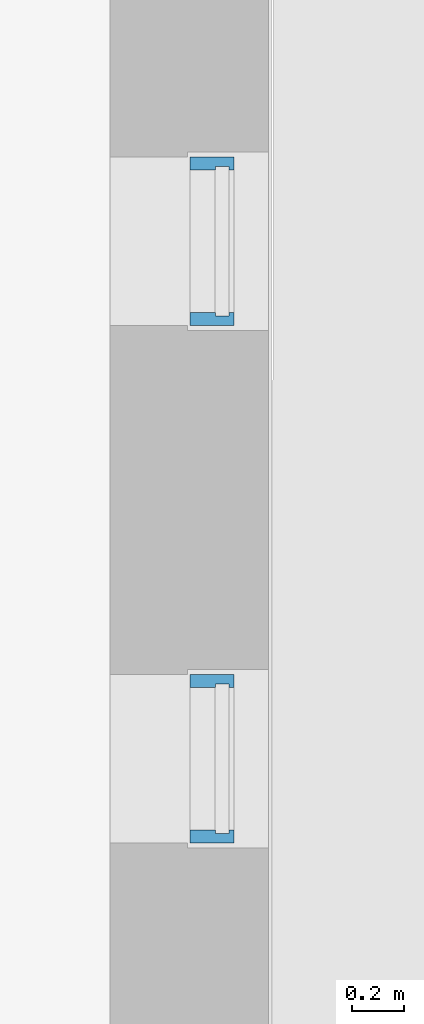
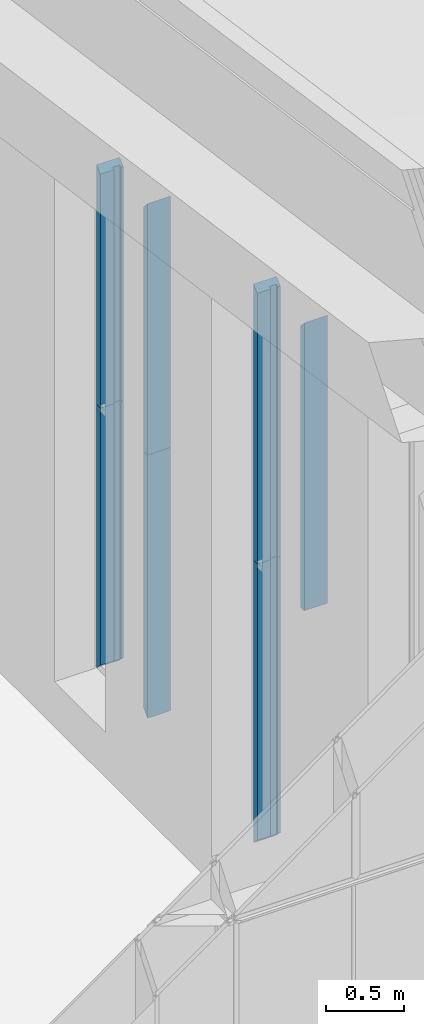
# One storey, part 75 of 246: 7 members, 2 elements without a shape of their own.
"""IFC2X3 building model written with IfcOpenShell, lengths in millimetres."""

from ifc_helpers import new_model, entity, si_unit, converted_unit, derived_unit, money_unit, direction, frame, origin_with_axes, place, context, subcontext, project, spatial, faceted_brep, material, type_object, element, aggregate, save


model = new_model("IFC2X3")

# Units and contexts
model_context = context("Model", 3, precision=0.01, world=origin_with_axes(), true_north=direction((0.0, 1.0)))
body_context = subcontext(model_context, "Body", "Model", "MODEL_VIEW")
ifc_project = project(units=[si_unit("LENGTHUNIT", "METRE", prefix="MILLI"), si_unit("AREAUNIT", "SQUARE_METRE"), si_unit("VOLUMEUNIT", "CUBIC_METRE"), converted_unit("PLANEANGLEUNIT", "DEGREE", entity("IfcPlaneAngleMeasure", 0.0174532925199), si_unit("PLANEANGLEUNIT", "RADIAN"), dimensions=[0, 0, 0, 0, 0, 0, 0]), si_unit("SOLIDANGLEUNIT", "STERADIAN"), money_unit("EUR"), converted_unit("TIMEUNIT", "Year", entity("IfcTimeMeasure", 31556926.0), si_unit("TIMEUNIT", "SECOND"), dimensions=[0, 0, 1, 0, 0, 0, 0]), si_unit("MASSUNIT", "GRAM", prefix="KILO"), si_unit("THERMODYNAMICTEMPERATUREUNIT", "DEGREE_CELSIUS"), si_unit("LUMINOUSINTENSITYUNIT", "LUMEN"), si_unit("ENERGYUNIT", "JOULE", prefix="MEGA"), derived_unit("THERMALCONDUCTANCEUNIT", [(si_unit("POWERUNIT", "WATT"), 1), (si_unit("LENGTHUNIT", "METRE"), -1), (si_unit("THERMODYNAMICTEMPERATUREUNIT", "KELVIN"), -1)]), derived_unit("SPECIFICHEATCAPACITYUNIT", [(si_unit("ENERGYUNIT", "JOULE"), 1), (si_unit("MASSUNIT", "GRAM", prefix="KILO"), -1), (si_unit("THERMODYNAMICTEMPERATUREUNIT", "KELVIN"), -1)]), derived_unit("MASSDENSITYUNIT", [(si_unit("MASSUNIT", "GRAM", prefix="KILO"), 1), (si_unit("VOLUMEUNIT", "CUBIC_METRE"), -1)])], contexts=[model_context])

# Site, building, storey
site_placement = place(None, origin_with_axes())
site = spatial("IfcSite", under=ifc_project, at=site_placement, Name="L.Koidula tn 11b", CompositionType="ELEMENT")
building_placement = place(site_placement, origin_with_axes())
building = spatial("IfcBuilding", under=site, at=building_placement, Name="Rakvere Riigigümnaasium", CompositionType="ELEMENT")
storey_placement = place(building_placement, origin_with_axes())
storey = spatial("IfcBuildingStorey", under=building, at=storey_placement, Name="1.korrus 0,00", CompositionType="ELEMENT", Elevation=0.0)

# Curtain wall, members
curtain_wall_type = type_object("IfcCurtainWallType", Name="Curtain Wall Type", PredefinedType="NOTDEFINED")
curtain_wall_1_placement = place(storey_placement, frame((47433.9999935, 64420.454563, 200.0), z_axis=(0.0, 0.0, 1.0), x_axis=(1.0, 0.0, 0.0)))
curtain_wall_1 = element("IfcCurtainWall", 1, at=curtain_wall_1_placement, inside=storey, type_object=curtain_wall_type, Name="KLF-07-12")
ifc_material = material(Name="Alumiiniumprofiil (RAL 7021)")
member_type = type_object("IfcMemberType", Name="Boundary Frame 50 x 170", PredefinedType="MULLION")
member_1_placement = place(curtain_wall_1_placement, frame((0.0, -325.000197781, 2200.0), z_axis=(0.0, 5.98043645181e-09, 1.0), x_axis=(0.0, 1.0, -5.98043645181e-09)))
member_1 = element("IfcMember", 2, at=member_1_placement, type_object=member_type, material=ifc_material, Name="KLF-07-79-Profiilid", ObjectType="MULLION", context=body_context, shape_type="Brep", body=[
    faceted_brep([(36.999986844, 26.0, 2199.84649606), (49.9999869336, 26.0, 2184.86454443), (49.9999869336, 124.0, 2184.86454443), (-1.3411053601e-05, 124.0, 2242.48743533), (-1.3411053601e-05, -46.0, 2242.48743533), (49.9999869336, -46.0, 2184.86454443), (49.9999869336, -26.0, 2184.86454443), (36.999986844, -26.0, 2199.84649606), (37.0, 26.0, -1.02269392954e-06), (50.0, 26.0, -9.44948119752e-07), (50.0, 124.0, -9.44948119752e-07), (0.0, 124.0, -1.24396981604e-06), (0.0, -46.0, -1.24396981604e-06), (50.0, -46.0, -9.44948119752e-07), (50.0, -26.0, -9.44948119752e-07), (37.0, -26.0, -1.02269392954e-06)], [[[0, 1, 2, 3, 4, 5, 6, 7]], [[0, 8, 9, 1]], [[9, 10, 2, 1]], [[10, 11, 3, 2]], [[11, 12, 4, 3]], [[12, 13, 5, 4]], [[6, 5, 13, 14]], [[14, 15, 7, 6]], [[7, 15, 8, 0]], [[8, 15, 14, 13, 12, 11, 10, 9]]]),
])
member_2_placement = place(curtain_wall_1_placement, frame((0.0, 325.000185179, 4349.94456763), z_axis=(0.0, 5.48452004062e-09, -1.0), x_axis=(0.0, -1.0, -5.48452004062e-09)))
member_2 = element("IfcMember", 3, at=member_2_placement, type_object=member_type, material=ifc_material, Name="KLF-07-81-Profiilid", ObjectType="MULLION", context=body_context, shape_type="Brep", body=[
    faceted_brep([(37.0000117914, 26.0, 2149.94456756), (50.0000117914, 26.0, 2149.94456749), (50.0000117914, 124.0, 2149.94456749), (1.17914140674e-05, 124.0, 2149.94456776), (1.17914140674e-05, -46.0, 2149.94456776), (50.0000117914, -46.0, 2149.94456749), (50.0000117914, -26.0, 2149.94456749), (37.0000117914, -26.0, 2149.94456756), (37.0000001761, 26.0, 32.105295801), (50.0000002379, 26.0, 43.3855348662), (50.0000002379, 124.0, 43.3855348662), (0.0, 124.0, 0.0), (0.0, -46.0, 0.0), (50.0000002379, -46.0, 43.3855348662), (50.0000002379, -26.0, 43.3855348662), (37.0000001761, -26.0, 32.105295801)], [[[0, 1, 2, 3, 4, 5, 6, 7]], [[0, 8, 9, 1]], [[9, 10, 2, 1]], [[2, 10, 11, 3]], [[3, 11, 12, 4]], [[4, 12, 13, 5]], [[6, 5, 13, 14]], [[14, 15, 7, 6]], [[7, 15, 8, 0]], [[8, 15, 14, 13, 12, 11, 10, 9]]]),
])
member_3_placement = place(curtain_wall_1_placement, frame((0.0, 325.000196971, 2200.0), z_axis=(0.0, 0.0, -1.0), x_axis=(0.0, -1.0, 0.0)))
member_3 = element("IfcMember", 4, at=member_3_placement, type_object=member_type, material=ifc_material, Name="KLF-07-76-Profiilid", ObjectType="MULLION", context=body_context, shape_type="Brep", body=[
    faceted_brep([(37.0, 26.0, 2163.0), (50.0, 26.0, 2150.0), (50.0, 124.0, 2150.0), (0.0, 124.0, 2200.0), (0.0, -46.0, 2200.0), (50.0, -46.0, 2150.0), (50.0, -26.0, 2150.0), (37.0, -26.0, 2163.0), (37.0, 26.0, -1.3711298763e-07), (50.0, 26.0, -1.3711298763e-07), (50.0, 124.0, -1.3711298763e-07), (0.0, 124.0, -1.3711298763e-07), (0.0, -46.0, -1.3711298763e-07), (50.0, -46.0, -1.3711298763e-07), (50.0, -26.0, -1.3711298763e-07), (37.0, -26.0, -1.3711298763e-07)], [[[0, 1, 2, 3, 4, 5, 6, 7]], [[0, 8, 9, 1]], [[9, 10, 2, 1]], [[10, 11, 3, 2]], [[11, 12, 4, 3]], [[12, 13, 5, 4]], [[6, 5, 13, 14]], [[14, 15, 7, 6]], [[7, 15, 8, 0]], [[8, 15, 14, 13, 12, 11, 10, 9]]]),
])
aggregate(curtain_wall_1, [member_1, member_2, member_3])

curtain_wall_2_placement = place(storey_placement, frame((47433.9999935, 66420.454682, 350.000073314), z_axis=(0.0, 0.0, 1.0), x_axis=(1.0, 0.0, 0.0)))
curtain_wall_2 = element("IfcCurtainWall", 5, at=curtain_wall_2_placement, inside=storey, type_object=curtain_wall_type, Name="KLF-07-13")
member_4_placement = place(curtain_wall_2_placement, frame((0.0, -325.000160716, 2049.99992669), z_axis=(0.0, 1.12344498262e-07, 1.0), x_axis=(0.0, 1.0, -1.12344498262e-07)))
member_4 = element("IfcMember", 6, at=member_4_placement, type_object=member_type, material=ifc_material, Name="KLF-07-73-Profiilid", ObjectType="MULLION", context=body_context, shape_type="Brep", body=[
    faceted_brep([(36.9997848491, 26.0, 1915.09941018), (49.9997865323, 26.0, 1900.1174632), (49.9997865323, 124.0, 1900.1174632), (-0.000219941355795, 124.0, 1957.74033617), (-0.000219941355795, -46.0, 1957.74033617), (49.9997865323, -46.0, 1900.1174632), (49.9997865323, -26.0, 1900.1174632), (36.9997848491, -26.0, 1915.09941018), (37.0, 26.0, 3.96068644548e-06), (50.0, 26.0, 5.42116485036e-06), (50.0, 124.0, 5.42116485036e-06), (0.0, 124.0, -1.96060057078e-07), (0.0, -46.0, -1.96060057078e-07), (50.0, -46.0, 5.42116485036e-06), (50.0, -26.0, 5.42116485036e-06), (37.0, -26.0, 3.96068644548e-06)], [[[0, 1, 2, 3, 4, 5, 6, 7]], [[0, 8, 9, 1]], [[9, 10, 2, 1]], [[10, 11, 3, 2]], [[11, 12, 4, 3]], [[12, 13, 5, 4]], [[6, 5, 13, 14]], [[14, 15, 7, 6]], [[7, 15, 8, 0]], [[8, 15, 14, 13, 12, 11, 10, 9]]]),
])
member_5_placement = place(curtain_wall_2_placement, frame((0.0, -325.000374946, -7.33137830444e-05), z_axis=(0.0, 1.04502105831e-07, 1.0), x_axis=(0.0, 1.0, -1.04502105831e-07)))
member_5 = element("IfcMember", 7, at=member_5_placement, type_object=member_type, material=ifc_material, Name="KLF-07-72-Profiilid", ObjectType="MULLION", context=body_context, shape_type="Brep", body=[
    faceted_brep([(36.9997857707, 26.0, 2050.00000406), (49.9997857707, 26.0, 2050.00000542), (49.9997857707, 124.0, 2050.00000542), (-0.000214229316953, 124.0, 2050.0000002), (-0.000214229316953, -46.0, 2050.0000002), (49.9997857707, -46.0, 2050.00000542), (49.9997857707, -26.0, 2050.00000542), (36.9997857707, -26.0, 2050.00000406), (36.9999961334, 26.0, 37.0000077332), (49.9999947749, 26.0, 50.0000104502), (49.9999947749, 124.0, 50.0000104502), (0.0, 124.0, 0.0), (0.0, -46.0, 0.0), (49.9999947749, -46.0, 50.0000104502), (49.9999947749, -26.0, 50.0000104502), (36.9999961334, -26.0, 37.0000077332)], [[[0, 1, 2, 3, 4, 5, 6, 7]], [[0, 8, 9, 1]], [[9, 10, 2, 1]], [[2, 10, 11, 3]], [[3, 11, 12, 4]], [[4, 12, 13, 5]], [[6, 5, 13, 14]], [[14, 15, 7, 6]], [[7, 15, 8, 0]], [[8, 15, 14, 13, 12, 11, 10, 9]]]),
])
member_6_placement = place(curtain_wall_2_placement, frame((0.0, 325.000051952, 2049.99992669), z_axis=(0.0, 2.89584083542e-08, -1.0), x_axis=(0.0, -1.0, -2.89584083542e-08)))
member_6 = element("IfcMember", 8, at=member_6_placement, type_object=member_type, material=ifc_material, Name="KLF-07-76-Profiilid", ObjectType="MULLION", context=body_context, shape_type="Brep", body=[
    faceted_brep([(37.0000582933, 26.0, 2012.99999786), (50.0000579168, 26.0, 1999.9999971), (50.0000579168, 124.0, 1999.9999971), (5.93647371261e-05, 124.0, 2050.0), (5.93647371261e-05, -46.0, 2050.0), (50.0000579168, -46.0, 1999.9999971), (50.0000579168, -26.0, 1999.9999971), (37.0000582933, -26.0, 2012.99999786), (37.0, 26.0, -1.76308256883e-06), (50.0, 26.0, -2.139541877e-06), (50.0, 124.0, -2.139541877e-06), (0.0, 124.0, -6.91621870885e-07), (0.0, -46.0, -6.91621870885e-07), (50.0, -46.0, -2.139541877e-06), (50.0, -26.0, -2.139541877e-06), (37.0, -26.0, -1.76308256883e-06)], [[[0, 1, 2, 3, 4, 5, 6, 7]], [[0, 8, 9, 1]], [[9, 10, 2, 1]], [[10, 11, 3, 2]], [[11, 12, 4, 3]], [[12, 13, 5, 4]], [[6, 5, 13, 14]], [[14, 15, 7, 6]], [[7, 15, 8, 0]], [[8, 15, 14, 13, 12, 11, 10, 9]]]),
])
member_7_placement = place(curtain_wall_2_placement, frame((0.0, 325.000049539, 3915.1975223), z_axis=(0.0, 1.29354601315e-09, -1.0), x_axis=(0.0, -1.0, -1.29354601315e-09)))
member_7 = element("IfcMember", 9, at=member_7_placement, type_object=member_type, material=ifc_material, Name="KLF-07-75-Profiilid", ObjectType="MULLION", context=body_context, shape_type="Brep", body=[
    faceted_brep([(37.0000024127, 26.0, 1865.19759626), (50.0000024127, 26.0, 1865.19759624), (50.0000024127, 124.0, 1865.19759624), (2.41271891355e-06, 124.0, 1865.19759631), (2.41271891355e-06, -46.0, 1865.19759631), (50.0000024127, -46.0, 1865.19759624), (50.0000024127, -26.0, 1865.19759624), (37.0000024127, -26.0, 1865.19759626), (37.0000000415, 26.0, 32.1052996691), (50.0000000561, 26.0, 43.3855400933), (50.0000000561, 124.0, 43.3855400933), (0.0, 124.0, 0.0), (0.0, -46.0, 0.0), (50.0000000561, -46.0, 43.3855400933), (50.0000000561, -26.0, 43.3855400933), (37.0000000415, -26.0, 32.1052996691)], [[[0, 1, 2, 3, 4, 5, 6, 7]], [[0, 8, 9, 1]], [[9, 10, 2, 1]], [[2, 10, 11, 3]], [[3, 11, 12, 4]], [[4, 12, 13, 5]], [[6, 5, 13, 14]], [[14, 15, 7, 6]], [[7, 15, 8, 0]], [[8, 15, 14, 13, 12, 11, 10, 9]]]),
])
aggregate(curtain_wall_2, [member_4, member_5, member_6, member_7])

save(model, "model.ifc")
